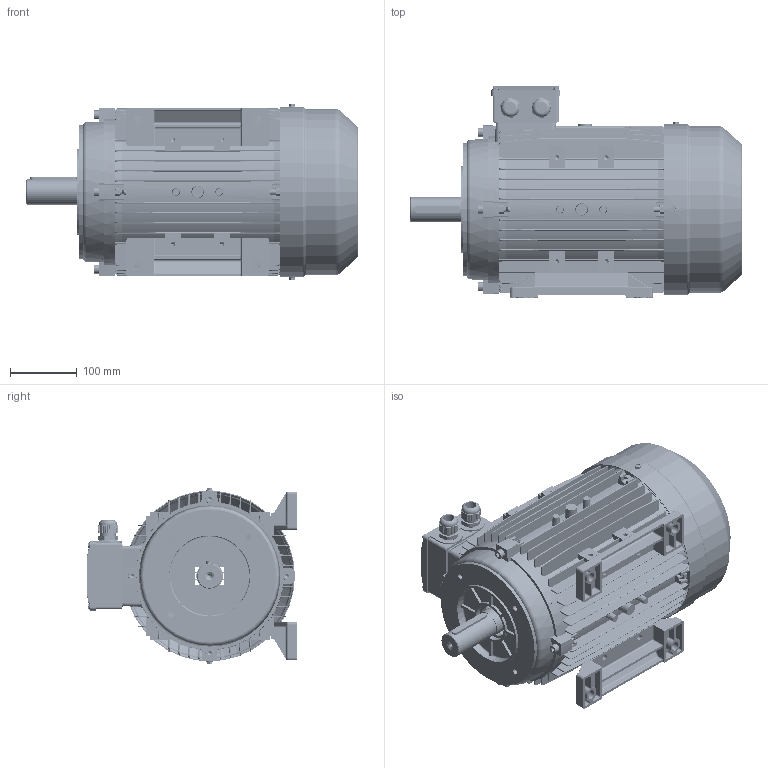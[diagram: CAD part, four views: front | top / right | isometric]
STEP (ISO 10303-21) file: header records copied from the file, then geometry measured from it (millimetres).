
FILE_DESCRIPTION (( 'STEP AP203' ), '1' );
FILE_NAME ('MSL132L assembly B34.STEP', '2017-11-26T10:11:20', ( 'user' ), ( 'china' ), 'SwSTEP 2.0', 'SolidWorks 2016', '' );
FILE_SCHEMA (( 'CONFIG_CONTROL_DESIGN' ));
Length unit declared in the file: millimetre
Products named in the file (17): M132菁褐(等謂)_L; MS132諉盄碟裔(苤); M132儂褲_L; MSL132L assembly B34; GB-T 70.1-2000 M8_40; GB-T 41-2000 M8; M132瑞欶_117; M132-Shaft drive end_DNF; M132傷裔B3_NonDrive; GB-T 29.2-1988 M4鞠褒坋趼湍菜_05; GB-T 5780-2000 M8_040; GB-T 29.2-1988 M5鞠褒坋趼湍菜_10; M25 cable gland; M132傷裔B14 ; M112-132諉盄碟(苤); MS132 綴裔瑞欶郪磁; MS132諉盄碟釱(苤)_2Holes
Assembly tree (36 placements, depth 3):
  MSL132L assembly B34
    M132儂褲_L
    M132-Shaft drive end_DNF
    M132菁褐(等謂)_L  x2
    MS132 綴裔瑞欶郪磁
      M132傷裔B3_NonDrive
      M132瑞欶_117
      GB-T 29.2-1988 M5鞠褒坋趼湍菜_10  x3
    GB-T 41-2000 M8  x8
    GB-T 70.1-2000 M8_40  x4
    M112-132諉盄碟(苤)
      MS132諉盄碟釱(苤)_2Holes
      MS132諉盄碟裔(苤)
      GB-T 29.2-1988 M4鞠褒坋趼湍菜_05  x4
      M25 cable gland  x2
    GB-T 5780-2000 M8_040  x4
    M132傷裔B14 
Bounding box: 499 x 317 x 264.6 mm (x, y, z)
Volume: 2924301.4 mm3; surface area: 1557827.3 mm2
Topology: 36 solids, 36 shells, 5760 faces, 14959 edges, 9315 vertices
Faces by surface type: plane 2422, cylinder 1498, cone 1082, bspline 604, torus 142, sphere 12
Entity records: 160836 total; most frequent: CARTESIAN_POINT 63823, ORIENTED_EDGE 20984, DIRECTION 17843, EDGE_CURVE 10492, VERTEX_POINT 6647, LINE 6007, VECTOR 6007, AXIS2_PLACEMENT_3D 5918
